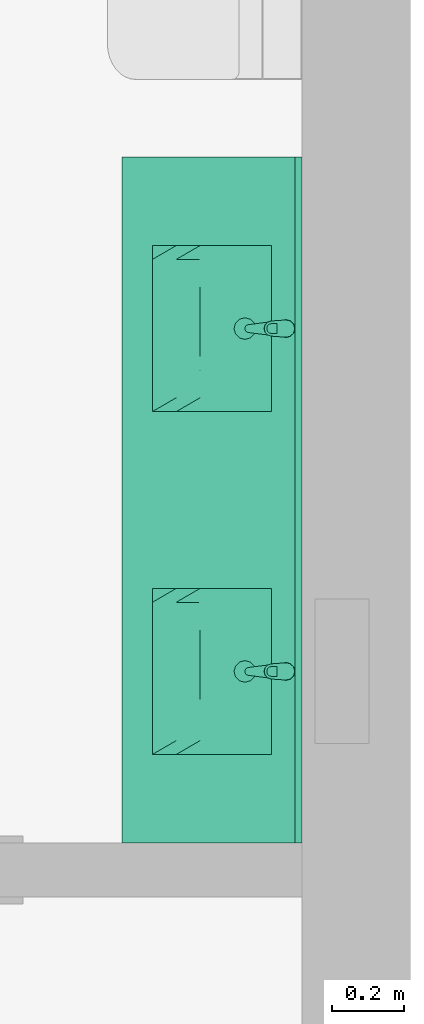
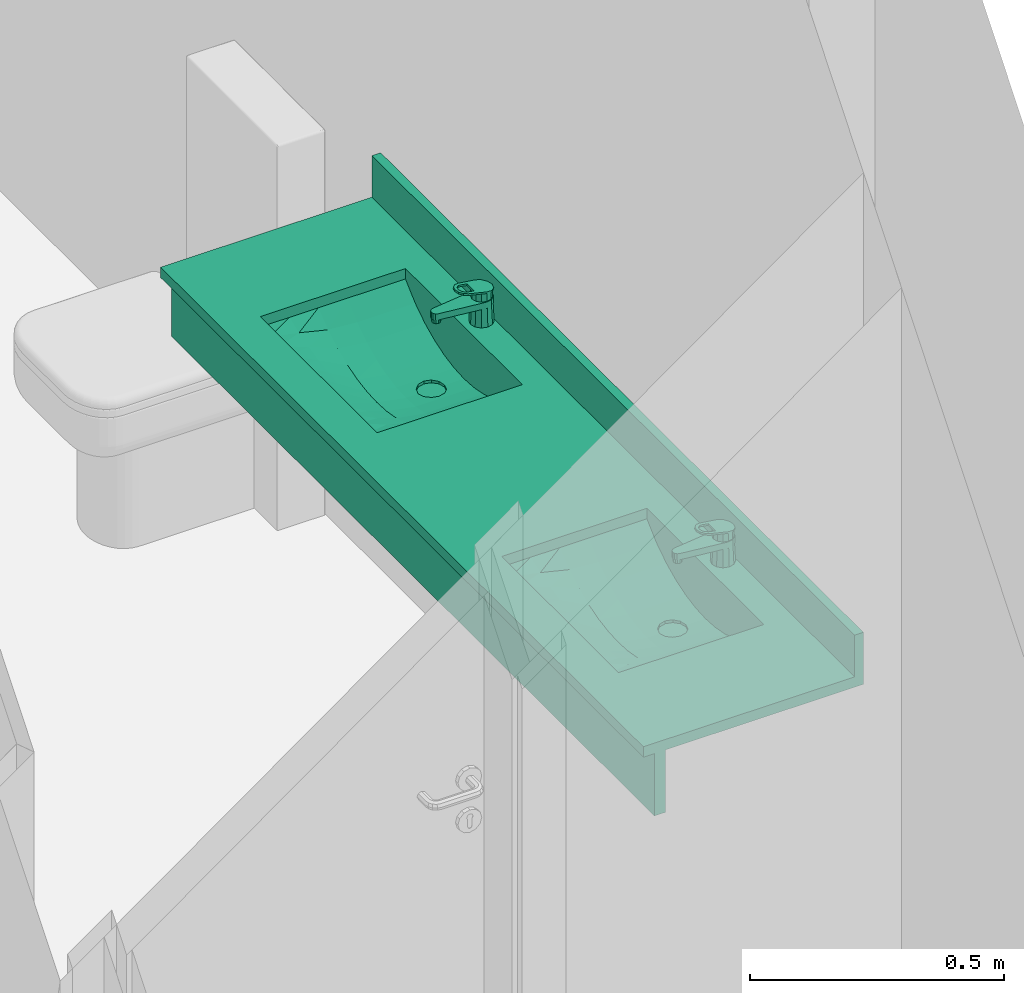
# One storey, part 22 of 24: 1 distribution element.
"""IFC2X3 building model written with IfcOpenShell, lengths in millimetres."""

import ifcopenshell
import ifcopenshell.guid

model = None  # the IFC model being written
_history = None  # IfcOwnerHistory: only IFC2X3 demands one
_inside = {}  # id of a spatial element -> (the spatial element, [elements in it])
_under = {}  # id of a project, library or spatial element -> (it, [spatial elements below it])
_declared = {}  # id of a project -> (the project, [libraries it declares])
_typed = {}  # id of a type object -> (the type object, [elements of that type])
_made_of = {}  # id of a material, layer set ... -> (it, [elements and type objects made of it])


def new_model(schema):
    """Start an empty IFC model of exactly this schema.

    Asked for "IFC4X3", IfcOpenShell would pick the latest addendum, in which some entities
    have other attributes; the version numbers below select the first issue.
    IFC2X3 requires an IfcOwnerHistory on every rooted entity: one is made here for all.
    """
    global model, _history
    if schema == "IFC4X3":
        model = ifcopenshell.file(schema_version=(4, 3, 0, 0))
    else:
        model = ifcopenshell.file(schema=schema)
    _inside.clear()
    _under.clear()
    _declared.clear()
    _typed.clear()
    _made_of.clear()
    _history = None
    if model.schema == "IFC2X3":
        org = make("IfcOrganization", Name="unknown")
        user = make(
            "IfcPersonAndOrganization",
            ThePerson=make("IfcPerson", FamilyName="unknown"),
            TheOrganization=org,
        )
        app = make(
            "IfcApplication",
            ApplicationDeveloper=org,
            Version="unknown",
            ApplicationFullName="unknown",
            ApplicationIdentifier="unknown",
        )
        _history = make(
            "IfcOwnerHistory",
            OwningUser=user,
            OwningApplication=app,
            ChangeAction="ADDED",
            CreationDate=0,
        )
    return model


def make(cls, **values):
    """One entity of the class cls with the attributes given. An attribute that is None is left unset."""
    return model.create_entity(
        cls, **{name: value for name, value in values.items() if value is not None}
    )


def entity(cls, *values):
    """Any entity or typed value of the class cls, its attributes in the order of the schema. None: left unset."""
    e = model.create_entity(cls)
    for i, value in enumerate(values):
        if value is not None:
            e[i] = value
    return e


def rooted(cls, **values):
    """An entity with a GlobalId (a new one), such as an element, a storey or a relation."""
    return make(cls, GlobalId=ifcopenshell.guid.new(), OwnerHistory=_history, **values)


def si_unit(unit_type, name, prefix=None):
    """IfcSIUnit, for example si_unit("LENGTHUNIT", "METRE", prefix="MILLI")."""
    return make("IfcSIUnit", UnitType=unit_type, Prefix=prefix, Name=name)


def converted_unit(unit_type, name, factor, base, dimensions=None, offset=None):
    """IfcConversionBasedUnit, such as the inch: factor (a typed value) times the base unit."""
    return make(
        "IfcConversionBasedUnit"
        if offset is None
        else "IfcConversionBasedUnitWithOffset",
        ConversionOffset=offset,
        Dimensions=None
        if dimensions is None
        else entity("IfcDimensionalExponents", *dimensions),
        UnitType=unit_type,
        Name=name,
        ConversionFactor=make(
            "IfcMeasureWithUnit", ValueComponent=factor, UnitComponent=base
        ),
    )


def money_unit(currency):
    """IfcMonetaryUnit."""
    return make("IfcMonetaryUnit", Currency=currency)


def assignment(units):
    """IfcUnitAssignment: the units of a project."""
    return None if units is None else make("IfcUnitAssignment", Units=units)


def point(xyz):
    """IfcCartesianPoint."""
    return None if xyz is None else make("IfcCartesianPoint", Coordinates=xyz)


def direction(xyz):
    """IfcDirection."""
    return None if xyz is None else make("IfcDirection", DirectionRatios=xyz)


def frame(location, z_axis=None, x_axis=None):
    """IfcAxis2Placement3D, a coordinate frame: its origin and axes. An axis left out is left unset."""
    return make(
        "IfcAxis2Placement3D",
        Location=point(location),
        Axis=direction(z_axis),
        RefDirection=direction(x_axis),
    )


def origin_with_axes():
    """The frame at (0, 0, 0) with the z axis (0, 0, 1) and the x axis (1, 0, 0) written out."""
    return frame((0.0, 0.0, 0.0), z_axis=(0.0, 0.0, 1.0), x_axis=(1.0, 0.0, 0.0))


def place(relative_to, where):
    """IfcLocalPlacement: puts the frame where relative to a parent placement (None: the world)."""
    return make(
        "IfcLocalPlacement", PlacementRelTo=relative_to, RelativePlacement=where
    )


def context(
    kind, dimensions, precision=None, world=None, true_north=None, identifier=None
):
    """IfcGeometricRepresentationContext, for example the 3D "Model" context."""
    return make(
        "IfcGeometricRepresentationContext",
        ContextIdentifier=identifier,
        ContextType=kind,
        CoordinateSpaceDimension=dimensions,
        Precision=precision,
        WorldCoordinateSystem=world,
        TrueNorth=true_north,
    )


def subcontext(parent, identifier, kind, view, scale=None):
    """IfcGeometricRepresentationSubContext, for example "Body" below "Model"."""
    return make(
        "IfcGeometricRepresentationSubContext",
        ContextIdentifier=identifier,
        ContextType=kind,
        ParentContext=parent,
        TargetScale=scale,
        TargetView=view,
    )


def project(units=None, contexts=None):
    """IfcProject with its units and contexts."""
    return rooted(
        "IfcProject",
        Name="project",
        RepresentationContexts=contexts,
        UnitsInContext=assignment(units),
    )


def spatial(cls, under=None, at=None, **own):
    """A site, building, storey or space (cls), placed at a placement, below another one or the project."""
    s = rooted(cls, ObjectPlacement=at, **own)
    if under is not None:
        _under.setdefault(under.id(), (under, []))[1].append(s)
    return s


def faces_of(points, faces, orient=None, outer=None):
    """IfcFace entities. A face is a list of loops; a loop is a list of indices into points, from 0.

    orient and outer hold one flag for each loop. By default every Orientation is true, the
    first loop of a face is its IfcFaceOuterBound and the others are IfcFaceBound.
    """
    made = []
    for i, loops in enumerate(faces):
        bounds = []
        for j, loop in enumerate(loops):
            is_outer = j == 0 if outer is None else outer[i][j]
            bounds.append(
                make(
                    "IfcFaceOuterBound" if is_outer else "IfcFaceBound",
                    Bound=make("IfcPolyLoop", Polygon=[points[k] for k in loop]),
                    Orientation=True if orient is None else orient[i][j],
                )
            )
        made.append(make("IfcFace", Bounds=bounds))
    return made


def open_shell(faces, orient=None, outer=None):
    """The faces of one IfcOpenShell. surface_model builds it on its shared points."""
    return ("IfcOpenShell", faces, orient, outer)


def faceted_brep(points, faces, orient=None, outer=None, voids=None):
    """IfcFacetedBrep: a solid bounded by flat faces; with voids (closed shells), ...WithVoids."""
    shared = [point(p) for p in points]
    hull = make("IfcClosedShell", CfsFaces=faces_of(shared, faces, orient, outer))
    if voids is None:
        return make("IfcFacetedBrep", Outer=hull)
    return make(
        "IfcFacetedBrepWithVoids",
        Outer=hull,
        Voids=[
            make(cls, CfsFaces=faces_of(shared, fs, o, b)) for cls, fs, o, b in voids
        ],
    )


def surface_model(cls, points, shells):
    """IfcFaceBasedSurfaceModel or IfcShellBasedSurfaceModel (cls): surfaces that need not close."""
    shared = [point(p) for p in points]
    made = [make(c, CfsFaces=faces_of(shared, fs, o, b)) for c, fs, o, b in shells]
    if cls == "IfcFaceBasedSurfaceModel":
        return make(cls, FbsmFaces=made)
    return make(cls, SbsmBoundary=made)


def shape(context_of_items, identifier, shape_type, items):
    """IfcShapeRepresentation: the items that make up one representation, for example the "Body"."""
    return make(
        "IfcShapeRepresentation",
        ContextOfItems=context_of_items,
        RepresentationIdentifier=identifier,
        RepresentationType=shape_type,
        Items=items,
    )


def material(Name=None, Category=None):
    """IfcMaterial."""
    return make("IfcMaterial", Name=Name, Category=Category)


def made_of(thing, what):
    """Note that an element or type object is made of a material, layer set ...; save() writes the relation."""
    if what is not None:
        _made_of.setdefault(what.id(), (what, []))[1].append(thing)
    return thing


def type_object(cls, material=None, **own):
    """A type object (cls), such as IfcWallType, which elements share."""
    return made_of(rooted(cls, **own), material)


def element(
    cls,
    number,
    at=None,
    inside=None,
    cuts=None,
    type_object=None,
    material=None,
    context=None,
    identifier="Body",
    shape_type=None,
    held_by="IfcProductDefinitionShape",
    body=None,
    shapes=None,
    **own,
):
    """One element of the class cls, such as IfcWall. Its Tag is "e" and its number.

    at: its placement. inside: the storey or other place that contains it. cuts: it is an
    opening in that element (IfcRelVoidsElement). A single representation is given by context,
    identifier, shape_type and body (its items); several are given by shapes. held_by: the class
    of the entity that holds the representations. save() writes the other relations.
    """
    e = rooted(cls, Tag="e%d" % number, ObjectPlacement=at, **own)
    if body is not None:
        shapes = [shape(context, identifier, shape_type, body)]
    if shapes is not None:
        e.Representation = make(held_by, Representations=shapes)
    if inside is not None:
        _inside.setdefault(inside.id(), (inside, []))[1].append(e)
    if cuts is not None:
        rooted(
            "IfcRelVoidsElement", RelatingBuildingElement=cuts, RelatedOpeningElement=e
        )
    if type_object is not None:
        _typed.setdefault(type_object.id(), (type_object, []))[1].append(e)
    return made_of(e, material)


def aggregate(whole, parts):
    """IfcRelAggregates: a whole, such as a stair, and the parts it consists of."""
    return rooted("IfcRelAggregates", RelatingObject=whole, RelatedObjects=parts)


def save(model, path):
    """Write the relations noted so far, then the file.

    IfcRelAggregates (storeys below a building ...), IfcRelContainedInSpatialStructure (elements
    in a storey), IfcRelDefinesByType, IfcRelAssociatesMaterial and IfcRelDeclares: one each for
    every whole, place, type object, material and project.
    """
    for whole, parts in _under.values():
        aggregate(whole, parts)
    for where, things in _inside.values():
        rooted(
            "IfcRelContainedInSpatialStructure",
            RelatedElements=things,
            RelatingStructure=where,
        )
    for kind, things in _typed.values():
        rooted("IfcRelDefinesByType", RelatedObjects=things, RelatingType=kind)
    for what, things in _made_of.values():
        rooted("IfcRelAssociatesMaterial", RelatedObjects=things, RelatingMaterial=what)
    for by, libraries in _declared.values():
        rooted("IfcRelDeclares", RelatingContext=by, RelatedDefinitions=libraries)
    model.write(path)


model = new_model("IFC2X3")

# Units and contexts
model_context = context("Model", 3, precision=1e-05, world=origin_with_axes(), true_north=direction((0.0, 1.0)))
body_context = subcontext(model_context, "Body", "Model", "MODEL_VIEW")
ifc_project = project(units=[si_unit("LENGTHUNIT", "METRE", prefix="MILLI"), si_unit("AREAUNIT", "SQUARE_METRE"), si_unit("VOLUMEUNIT", "CUBIC_METRE"), converted_unit("PLANEANGLEUNIT", "DEGREE", entity("IfcPlaneAngleMeasure", 0.0174532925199), si_unit("PLANEANGLEUNIT", "RADIAN"), dimensions=[0, 0, 0, 0, 0, 0, 0]), si_unit("SOLIDANGLEUNIT", "STERADIAN"), money_unit("USD"), converted_unit("TIMEUNIT", "Year", entity("IfcTimeMeasure", 31556926.0), si_unit("TIMEUNIT", "SECOND"), dimensions=[0, 0, 0, 0, 0, 0, 0]), si_unit("MASSUNIT", "GRAM"), si_unit("THERMODYNAMICTEMPERATUREUNIT", "DEGREE_CELSIUS"), si_unit("LUMINOUSINTENSITYUNIT", "LUMEN")], contexts=[model_context])

# Site, building, storey
site_placement = place(None, origin_with_axes())
site = spatial("IfcSite", under=ifc_project, at=site_placement, Name="Grove Residential", CompositionType="ELEMENT")
building_placement = place(site_placement, origin_with_axes())
building = spatial("IfcBuilding", under=site, at=building_placement, Name="Building", CompositionType="ELEMENT")
storey_placement = place(building_placement, frame((0.0, 0.0, 3740.0), z_axis=(0.0, 0.0, 1.0), x_axis=(1.0, 0.0, 0.0)))
storey = spatial("IfcBuildingStorey", under=building, at=storey_placement, Name="First Floor", CompositionType="ELEMENT", Elevation=3740.0)

# Distribution element
ifc_material = material(Name="Background")
distribution_element_type = type_object("IfcDistributionElementType", Name="Multi-Basin Counter 21")
distribution_element_placement = place(storey_placement, frame((11950.0, 4224.99996722, 0.0), z_axis=(0.0, 0.0, 1.0), x_axis=(0.0, -1.0, 0.0)))
element("IfcDistributionElement", 1, at=distribution_element_placement, inside=storey, type_object=distribution_element_type, material=ifc_material, Name="FU - 002", context=body_context, shape_type="SurfaceModel", body=[
    faceted_brep([(950.0, -500.0, 875.0), (-950.0, -500.0, 875.0), (-950.0, 0.0, 875.0), (950.0, 0.0, 875.0), (245.0, -85.0, 875.0), (245.0, -415.0, 875.0), (705.0, -415.0, 875.0), (705.0, -85.0, 875.0), (-245.0, -415.0, 875.0), (-245.0, -85.0, 875.0), (-705.0, -85.0, 875.0), (-705.0, -415.0, 875.0), (950.0, -500.0, 900.0), (-950.0, -500.0, 900.0), (-950.0, 0.0, 900.0), (950.0, 0.0, 900.0), (245.0, -85.0, 900.0), (245.0, -415.0, 900.0), (705.0, -415.0, 900.0), (705.0, -85.0, 900.0), (-245.0, -85.0, 900.0), (-245.0, -415.0, 900.0), (-705.0, -85.0, 900.0), (-705.0, -415.0, 900.0)], [[[0, 1, 2, 3], [4, 5, 6, 7], [8, 9, 10, 11]], [[0, 12, 13, 1]], [[1, 13, 14, 2]], [[2, 14, 15, 3]], [[3, 15, 12, 0]], [[4, 16, 17, 5]], [[5, 17, 18, 6]], [[6, 18, 19, 7]], [[7, 19, 16, 4]], [[20, 9, 8, 21]], [[22, 10, 9, 20]], [[23, 11, 10, 22]], [[21, 8, 11, 23]], [[12, 15, 14, 13], [16, 19, 18, 17], [21, 23, 22, 20]]]),
    faceted_brep([(950.0, -20.0, 900.0), (950.0, -20.0, 1000.0), (-950.0, -20.0, 1000.0), (-950.0, -20.0, 900.0), (950.0, 0.0, 900.0), (950.0, 0.0, 1000.0), (-950.0, 0.0, 1000.0), (-950.0, 0.0, 900.0)], [[[0, 1, 2, 3]], [[4, 5, 1, 0]], [[1, 5, 6, 2]], [[3, 2, 6, 7]], [[0, 3, 7, 4]], [[7, 6, 5, 4]]]),
    faceted_brep([(950.0, -475.0, 725.0), (950.0, -475.0, 875.0), (-950.0, -475.0, 875.0), (-950.0, -475.0, 725.0), (950.0, -450.0, 725.0), (950.0, -450.0, 875.0), (-950.0, -450.0, 875.0), (-950.0, -450.0, 725.0)], [[[0, 1, 2, 3]], [[4, 5, 1, 0]], [[1, 5, 6, 2]], [[3, 2, 6, 7]], [[0, 3, 7, 4]], [[7, 6, 5, 4]]]),
    surface_model("IfcShellBasedSurfaceModel", [(502.880937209, -151.0, 776.705514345), (513.333333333, -151.0, 777.344901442), (513.333333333, -85.0, 777.344901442), (475.0, -85.0, 775.0), (475.0, -128.90845, 775.0), (490.0, -132.927687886, 775.91757013), (500.980762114, -143.90845, 776.589278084), (475.0, -188.90845, 775.0), (475.0, -217.0, 775.0), (513.333333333, -217.0, 777.344901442), (505.0, -158.90845, 776.835140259), (500.980762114, -173.90845, 776.589278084), (490.0, -184.889212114, 775.91757013), (551.666666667, -151.0, 784.487750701), (551.666666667, -85.0, 784.487750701), (321.666666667, -85.0, 814.91096364), (360.0, -85.0, 796.779570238), (398.333333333, -85.0, 784.487750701), (436.666666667, -85.0, 777.344901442), (590.0, -85.0, 796.779570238), (628.333333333, -85.0, 814.91096364), (666.666666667, -85.0, 840.152573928), (705.0, -85.0, 875.0), (245.0, -85.0, 875.0), (283.333333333, -85.0, 840.152573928), (436.666666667, -151.0, 777.344901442), (447.119062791, -151.0, 776.705514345), (449.019237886, -143.90845, 776.589278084), (460.0, -132.927687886, 775.91757013), (436.666666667, -217.0, 777.344901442), (460.0, -184.889212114, 775.91757013), (449.019237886, -173.90845, 776.589278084), (445.0, -158.90845, 776.835140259), (513.333333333, -283.0, 789.601320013), (551.666666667, -217.0, 784.487750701), (590.0, -151.0, 796.779570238), (321.666666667, -151.0, 814.91096364), (360.0, -151.0, 796.779570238), (398.333333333, -151.0, 784.487750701), (628.333333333, -151.0, 814.91096364), (666.666666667, -151.0, 840.152573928), (705.0, -151.0, 875.0), (245.0, -151.0, 875.0), (283.333333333, -151.0, 840.152573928), (398.333333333, -217.0, 784.487750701), (475.0, -283.0, 787.470979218), (551.666666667, -283.0, 796.073050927), (590.0, -217.0, 796.779570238), (321.666666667, -217.0, 814.91096364), (360.0, -217.0, 796.779570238), (628.333333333, -217.0, 814.91096364), (666.666666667, -217.0, 840.152573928), (705.0, -217.0, 875.0), (705.0, -283.0, 875.0), (705.0, -349.0, 875.0), (705.0, -415.0, 875.0), (245.0, -283.0, 875.0), (245.0, -217.0, 875.0), (245.0, -415.0, 875.0), (245.0, -349.0, 875.0), (283.333333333, -217.0, 840.152573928), (436.666666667, -283.0, 789.601320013), (513.333333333, -349.0, 832.610025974), (551.666666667, -349.0, 836.130662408), (590.0, -283.0, 807.144405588), (360.0, -283.0, 807.144405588), (398.333333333, -283.0, 796.073050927), (628.333333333, -283.0, 823.307626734), (666.666666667, -283.0, 845.418737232), (666.666666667, -349.0, 861.354147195), (283.333333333, -283.0, 845.418737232), (283.333333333, -415.0, 875.0), (283.333333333, -349.0, 861.354147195), (321.666666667, -283.0, 823.307626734), (475.0, -349.0, 831.440859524), (590.0, -349.0, 842.042929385), (666.666666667, -415.0, 875.0), (628.333333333, -415.0, 875.0), (590.0, -415.0, 875.0), (551.666666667, -415.0, 875.0), (513.333333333, -415.0, 875.0), (475.0, -415.0, 875.0), (436.666666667, -415.0, 875.0), (398.333333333, -415.0, 875.0), (360.0, -415.0, 875.0), (321.666666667, -415.0, 875.0), (436.666666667, -349.0, 832.610025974), (628.333333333, -349.0, 850.416360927), (360.0, -349.0, 842.042929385), (398.333333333, -349.0, 836.130662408), (321.666666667, -349.0, 850.416360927)], [open_shell([[[0, 1, 2, 3, 4, 5, 6]], [[7, 8, 9, 1, 0, 10, 11, 12]], [[2, 1, 13, 14]], [[15, 16, 17, 18, 3, 2, 14, 19, 20, 21, 22, 23, 24]], [[3, 18, 25, 26, 27, 28, 4]], [[26, 25, 29, 8, 7, 30, 31, 32]], [[8, 33, 9]], [[1, 9, 34, 13]], [[14, 13, 35, 19]], [[15, 36, 37, 16]], [[16, 37, 38, 17]], [[17, 38, 25, 18]], [[19, 35, 39, 20]], [[20, 39, 40, 21]], [[21, 40, 41, 22]], [[23, 42, 43, 24]], [[24, 43, 36, 15]], [[38, 44, 29, 25]], [[29, 45, 8]], [[45, 33, 8]], [[33, 46, 9]], [[9, 46, 34]], [[13, 34, 47, 35]], [[36, 48, 49, 37]], [[37, 49, 44, 38]], [[35, 47, 50, 39]], [[39, 50, 51, 40]], [[40, 51, 52, 41]], [[52, 53, 54, 55, 22, 41]], [[56, 57, 42, 23, 58, 59]], [[42, 57, 60, 43]], [[43, 60, 48, 36]], [[44, 61, 29]], [[61, 45, 29]], [[45, 62, 33]], [[33, 63, 46]], [[46, 64, 34]], [[34, 64, 47]], [[48, 65, 49]], [[49, 66, 44]], [[47, 67, 50]], [[50, 68, 51]], [[51, 53, 52]], [[68, 54, 53]], [[69, 55, 54]], [[56, 70, 57]], [[58, 71, 59]], [[59, 72, 56]], [[57, 70, 60]], [[60, 73, 48]], [[66, 61, 44]], [[61, 74, 45]], [[74, 62, 45]], [[62, 63, 33]], [[63, 75, 46]], [[46, 75, 64]], [[64, 67, 47]], [[73, 65, 48]], [[65, 66, 49]], [[67, 68, 50]], [[68, 53, 51]], [[69, 54, 68]], [[76, 55, 69]], [[56, 72, 70]], [[77, 78, 79, 80, 81, 82, 83, 84, 85, 71, 58, 55, 76]], [[59, 71, 72]], [[70, 73, 60]], [[66, 86, 61]], [[86, 74, 61]], [[74, 80, 62]], [[62, 79, 63]], [[63, 78, 75]], [[75, 87, 64]], [[64, 87, 67]], [[73, 88, 65]], [[65, 89, 66]], [[67, 69, 68]], [[87, 76, 69]], [[72, 90, 70]], [[78, 77, 75]], [[79, 78, 63]], [[80, 79, 62]], [[81, 80, 74]], [[82, 81, 86]], [[83, 82, 89]], [[84, 83, 88]], [[85, 84, 90]], [[71, 85, 72]], [[77, 76, 87]], [[70, 90, 73]], [[89, 86, 66]], [[86, 81, 74]], [[75, 77, 87]], [[87, 69, 67]], [[90, 88, 73]], [[88, 89, 65]], [[72, 85, 90]], [[89, 82, 86]], [[88, 83, 89]], [[90, 84, 88]]])]),
    surface_model("IfcShellBasedSurfaceModel", [(449.019237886, -143.90845, 776.589278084), (449.019237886, -143.90845, 770.0), (445.0, -158.90845, 770.0), (445.0, -158.90845, 776.835140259), (460.0, -132.927687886, 775.91757013), (460.0, -132.927687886, 770.0), (475.0, -128.90845, 770.0), (490.0, -132.927687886, 770.0), (500.980762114, -143.90845, 770.0), (505.0, -158.90845, 770.0), (500.980762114, -173.90845, 770.0), (490.0, -184.889212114, 770.0), (475.0, -188.90845, 770.0), (460.0, -184.889212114, 770.0), (449.019237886, -173.90845, 770.0), (449.019237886, -173.90845, 776.589278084), (475.0, -128.90845, 775.0), (490.0, -132.927687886, 775.91757013), (500.980762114, -143.90845, 776.589278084), (505.0, -158.90845, 776.835140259), (500.980762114, -173.90845, 776.589278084), (490.0, -184.889212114, 775.91757013), (475.0, -188.90845, 775.0), (460.0, -184.889212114, 775.91757013)], [open_shell([[[0, 1, 2, 3]], [[4, 5, 1, 0]], [[5, 6, 7, 8, 9, 10, 11, 12, 13, 14, 2, 1]], [[3, 2, 14, 15]], [[16, 6, 5, 4]], [[17, 7, 6, 16]], [[18, 8, 7, 17]], [[19, 9, 8, 18]], [[20, 10, 9, 19]], [[21, 11, 10, 20]], [[22, 12, 11, 21]], [[23, 13, 12, 22]], [[15, 14, 13, 23]]])]),
    surface_model("IfcShellBasedSurfaceModel", [(-447.119062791, -151.0, 776.705514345), (-436.666666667, -151.0, 777.344901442), (-436.666666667, -85.0, 777.344901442), (-475.0, -85.0, 775.0), (-475.0, -128.90845, 775.0), (-460.0, -132.927687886, 775.91757013), (-449.019237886, -143.90845, 776.589278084), (-475.0, -188.90845, 775.0), (-475.0, -217.0, 775.0), (-436.666666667, -217.0, 777.344901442), (-445.0, -158.90845, 776.835140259), (-449.019237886, -173.90845, 776.589278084), (-460.0, -184.889212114, 775.91757013), (-398.333333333, -151.0, 784.487750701), (-398.333333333, -85.0, 784.487750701), (-628.333333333, -85.0, 814.91096364), (-590.0, -85.0, 796.779570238), (-551.666666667, -85.0, 784.487750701), (-513.333333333, -85.0, 777.344901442), (-360.0, -85.0, 796.779570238), (-321.666666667, -85.0, 814.91096364), (-283.333333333, -85.0, 840.152573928), (-245.0, -85.0, 875.0), (-705.0, -85.0, 875.0), (-666.666666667, -85.0, 840.152573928), (-513.333333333, -151.0, 777.344901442), (-502.880937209, -151.0, 776.705514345), (-500.980762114, -143.90845, 776.589278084), (-490.0, -132.927687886, 775.91757013), (-513.333333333, -217.0, 777.344901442), (-490.0, -184.889212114, 775.91757013), (-500.980762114, -173.90845, 776.589278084), (-505.0, -158.90845, 776.835140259), (-436.666666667, -283.0, 789.601320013), (-398.333333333, -217.0, 784.487750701), (-360.0, -151.0, 796.779570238), (-628.333333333, -151.0, 814.91096364), (-590.0, -151.0, 796.779570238), (-551.666666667, -151.0, 784.487750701), (-321.666666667, -151.0, 814.91096364), (-283.333333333, -151.0, 840.152573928), (-245.0, -151.0, 875.0), (-705.0, -151.0, 875.0), (-666.666666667, -151.0, 840.152573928), (-551.666666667, -217.0, 784.487750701), (-475.0, -283.0, 787.470979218), (-398.333333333, -283.0, 796.073050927), (-360.0, -217.0, 796.779570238), (-628.333333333, -217.0, 814.91096364), (-590.0, -217.0, 796.779570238), (-321.666666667, -217.0, 814.91096364), (-283.333333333, -217.0, 840.152573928), (-245.0, -217.0, 875.0), (-245.0, -283.0, 875.0), (-245.0, -349.0, 875.0), (-245.0, -415.0, 875.0), (-705.0, -283.0, 875.0), (-705.0, -217.0, 875.0), (-705.0, -415.0, 875.0), (-705.0, -349.0, 875.0), (-666.666666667, -217.0, 840.152573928), (-513.333333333, -283.0, 789.601320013), (-436.666666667, -349.0, 832.610025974), (-398.333333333, -349.0, 836.130662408), (-360.0, -283.0, 807.144405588), (-590.0, -283.0, 807.144405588), (-551.666666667, -283.0, 796.073050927), (-321.666666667, -283.0, 823.307626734), (-283.333333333, -283.0, 845.418737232), (-283.333333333, -349.0, 861.354147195), (-666.666666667, -283.0, 845.418737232), (-666.666666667, -415.0, 875.0), (-666.666666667, -349.0, 861.354147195), (-628.333333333, -283.0, 823.307626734), (-475.0, -349.0, 831.440859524), (-360.0, -349.0, 842.042929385), (-283.333333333, -415.0, 875.0), (-321.666666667, -415.0, 875.0), (-360.0, -415.0, 875.0), (-398.333333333, -415.0, 875.0), (-436.666666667, -415.0, 875.0), (-475.0, -415.0, 875.0), (-513.333333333, -415.0, 875.0), (-551.666666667, -415.0, 875.0), (-590.0, -415.0, 875.0), (-628.333333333, -415.0, 875.0), (-513.333333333, -349.0, 832.610025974), (-321.666666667, -349.0, 850.416360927), (-590.0, -349.0, 842.042929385), (-551.666666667, -349.0, 836.130662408), (-628.333333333, -349.0, 850.416360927)], [open_shell([[[0, 1, 2, 3, 4, 5, 6]], [[7, 8, 9, 1, 0, 10, 11, 12]], [[2, 1, 13, 14]], [[15, 16, 17, 18, 3, 2, 14, 19, 20, 21, 22, 23, 24]], [[3, 18, 25, 26, 27, 28, 4]], [[26, 25, 29, 8, 7, 30, 31, 32]], [[8, 33, 9]], [[1, 9, 34, 13]], [[14, 13, 35, 19]], [[15, 36, 37, 16]], [[16, 37, 38, 17]], [[17, 38, 25, 18]], [[19, 35, 39, 20]], [[20, 39, 40, 21]], [[21, 40, 41, 22]], [[23, 42, 43, 24]], [[24, 43, 36, 15]], [[38, 44, 29, 25]], [[29, 45, 8]], [[45, 33, 8]], [[33, 46, 9]], [[9, 46, 34]], [[13, 34, 47, 35]], [[36, 48, 49, 37]], [[37, 49, 44, 38]], [[35, 47, 50, 39]], [[39, 50, 51, 40]], [[40, 51, 52, 41]], [[52, 53, 54, 55, 22, 41]], [[56, 57, 42, 23, 58, 59]], [[42, 57, 60, 43]], [[43, 60, 48, 36]], [[44, 61, 29]], [[61, 45, 29]], [[45, 62, 33]], [[33, 63, 46]], [[46, 64, 34]], [[34, 64, 47]], [[48, 65, 49]], [[49, 66, 44]], [[47, 67, 50]], [[50, 68, 51]], [[51, 53, 52]], [[68, 54, 53]], [[69, 55, 54]], [[56, 70, 57]], [[58, 71, 59]], [[59, 72, 56]], [[57, 70, 60]], [[60, 73, 48]], [[66, 61, 44]], [[61, 74, 45]], [[74, 62, 45]], [[62, 63, 33]], [[63, 75, 46]], [[46, 75, 64]], [[64, 67, 47]], [[73, 65, 48]], [[65, 66, 49]], [[67, 68, 50]], [[68, 53, 51]], [[69, 54, 68]], [[76, 55, 69]], [[56, 72, 70]], [[77, 78, 79, 80, 81, 82, 83, 84, 85, 71, 58, 55, 76]], [[59, 71, 72]], [[70, 73, 60]], [[66, 86, 61]], [[86, 74, 61]], [[74, 80, 62]], [[62, 79, 63]], [[63, 78, 75]], [[75, 87, 64]], [[64, 87, 67]], [[73, 88, 65]], [[65, 89, 66]], [[67, 69, 68]], [[87, 76, 69]], [[72, 90, 70]], [[78, 77, 75]], [[79, 78, 63]], [[80, 79, 62]], [[81, 80, 74]], [[82, 81, 86]], [[83, 82, 89]], [[84, 83, 88]], [[85, 84, 90]], [[71, 85, 72]], [[77, 76, 87]], [[70, 90, 73]], [[89, 86, 66]], [[86, 81, 74]], [[75, 77, 87]], [[87, 69, 67]], [[90, 88, 73]], [[88, 89, 65]], [[72, 85, 90]], [[89, 82, 86]], [[88, 83, 89]], [[90, 84, 88]]])]),
    surface_model("IfcShellBasedSurfaceModel", [(-500.980762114, -143.90845, 776.589278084), (-500.980762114, -143.90845, 770.0), (-505.0, -158.90845, 770.0), (-505.0, -158.90845, 776.835140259), (-490.0, -132.927687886, 775.91757013), (-490.0, -132.927687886, 770.0), (-475.0, -128.90845, 770.0), (-460.0, -132.927687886, 770.0), (-449.019237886, -143.90845, 770.0), (-445.0, -158.90845, 770.0), (-449.019237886, -173.90845, 770.0), (-460.0, -184.889212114, 770.0), (-475.0, -188.90845, 770.0), (-490.0, -184.889212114, 770.0), (-500.980762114, -173.90845, 770.0), (-500.980762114, -173.90845, 776.589278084), (-475.0, -128.90845, 775.0), (-460.0, -132.927687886, 775.91757013), (-449.019237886, -143.90845, 776.589278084), (-445.0, -158.90845, 776.835140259), (-449.019237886, -173.90845, 776.589278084), (-460.0, -184.889212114, 775.91757013), (-475.0, -188.90845, 775.0), (-490.0, -184.889212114, 775.91757013)], [open_shell([[[0, 1, 2, 3]], [[4, 5, 1, 0]], [[5, 6, 7, 8, 9, 10, 11, 12, 13, 14, 2, 1]], [[3, 2, 14, 15]], [[16, 6, 5, 4]], [[17, 7, 6, 16]], [[18, 8, 7, 17]], [[19, 9, 8, 18]], [[20, 10, 9, 19]], [[21, 11, 10, 20]], [[22, 12, 11, 21]], [[23, 13, 12, 22]], [[15, 14, 13, 23]]])]),
    faceted_brep([(462.5, -23.3493649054, 900.0), (464.412677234, -26.6622190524, 976.507089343), (475.0, -23.7980769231, 975.961538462), (475.0, -20.0, 900.0), (453.349364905, -32.5, 900.0), (456.726449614, -34.4497607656, 977.990430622), (454.0, -45.0, 980.0), (456.899658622, -55.4502369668, 981.990521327), (464.585894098, -63.037760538, 983.435763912), (475.0, -65.8018867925, 983.962264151), (485.414105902, -63.037760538, 983.435763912), (493.100341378, -55.4502369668, 981.990521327), (496.0, -45.0, 980.0), (493.273550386, -34.4497607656, 977.990430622), (485.587322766, -26.6622190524, 976.507089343), (487.5, -23.3493649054, 900.0), (496.650635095, -32.5, 900.0), (500.0, -45.0, 900.0), (496.650635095, -57.5, 900.0), (487.5, -66.6506350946, 900.0), (475.0, -70.0, 900.0), (462.5, -66.6506350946, 900.0), (453.349364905, -57.5, 900.0), (450.0, -45.0, 900.0)], [[[0, 1, 2, 3]], [[4, 5, 1, 0]], [[1, 5, 6, 7, 8, 9, 10, 11, 12, 13, 14, 2]], [[3, 2, 14, 15]], [[0, 3, 15, 16, 17, 18, 19, 20, 21, 22, 23, 4]], [[23, 6, 5, 4]], [[22, 7, 6, 23]], [[21, 8, 7, 22]], [[20, 9, 8, 21]], [[19, 10, 9, 20]], [[18, 11, 10, 19]], [[17, 12, 11, 18]], [[16, 13, 12, 17]], [[15, 14, 13, 16]]]),
    faceted_brep([(466.0, -148.0, 935.0), (466.0, -148.0, 945.0), (467.205771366, -143.5, 945.0), (467.205771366, -143.5, 935.0), (467.205771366, -152.5, 935.0), (467.205771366, -152.5, 945.0), (470.5, -155.794228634, 945.0), (475.0, -157.0, 945.0), (479.5, -155.794228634, 945.0), (482.794228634, -152.5, 945.0), (484.0, -148.0, 945.0), (482.794228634, -143.5, 945.0), (479.5, -140.205771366, 945.0), (475.0, -139.0, 945.0), (470.5, -140.205771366, 945.0), (470.5, -140.205771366, 935.0), (475.0, -139.0, 935.0), (479.5, -140.205771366, 935.0), (482.794228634, -143.5, 935.0), (484.0, -148.0, 935.0), (482.794228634, -152.5, 935.0), (479.5, -155.794228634, 935.0), (475.0, -157.0, 935.0), (470.5, -155.794228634, 935.0)], [[[0, 1, 2, 3]], [[4, 5, 1, 0]], [[1, 5, 6, 7, 8, 9, 10, 11, 12, 13, 14, 2]], [[3, 2, 14, 15]], [[0, 3, 15, 16, 17, 18, 19, 20, 21, 22, 23, 4]], [[23, 6, 5, 4]], [[22, 7, 6, 23]], [[21, 8, 7, 22]], [[20, 9, 8, 21]], [[19, 10, 9, 20]], [[18, 11, 10, 19]], [[17, 12, 11, 18]], [[16, 13, 12, 17]], [[15, 14, 13, 16]]]),
    faceted_brep([(496.727805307, -34.8067946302, 960.0), (487.871717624, -24.7436961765, 960.0), (474.99999898, -21.000021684, 960.0), (462.128280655, -24.7436972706, 960.0), (453.272193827, -34.806796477, 960.0), (451.194600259, -48.0499020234, 960.0), (464.088, -149.3883, 960.0), (465.971083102, -154.283134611, 960.0), (469.906611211, -157.749692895, 960.0), (474.999963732, -158.99996004, 960.0), (480.093324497, -157.749726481, 960.0), (484.028875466, -154.283194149, 960.0), (485.911990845, -149.388371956, 960.0), (498.8054, -48.0499, 960.0), (464.0, -25.9474411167, 960.0), (475.0, -23.0, 960.0), (486.0, -25.9474411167, 960.0), (494.052558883, -34.0, 960.0), (497.0, -45.0, 960.0), (494.052558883, -56.0, 960.0), (486.0, -64.0525588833, 960.0), (475.0, -67.0, 960.0), (464.0, -64.0525588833, 960.0), (455.947441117, -56.0, 960.0), (453.0, -45.0, 960.0), (455.947441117, -34.0, 960.0), (496.727805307, -34.8067946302, 945.0), (487.871717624, -24.7436961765, 945.0), (474.99999898, -21.000021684, 945.0), (462.128280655, -24.7436972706, 945.0), (453.272193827, -34.806796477, 945.0), (451.194600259, -48.0499020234, 945.0), (464.088, -149.3883, 945.0), (465.971083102, -154.283134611, 945.0), (469.906611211, -157.749692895, 945.0), (474.999963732, -158.99996004, 945.0), (480.093324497, -157.749726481, 945.0), (484.028875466, -154.283194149, 945.0), (485.911990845, -149.388371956, 945.0), (498.8054, -48.0499, 945.0), (475.0, -22.25, 945.0), (463.625, -25.2979220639, 945.0), (486.375, -25.2979220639, 945.0), (494.702077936, -33.625, 945.0), (497.75, -45.0, 945.0), (494.702077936, -56.375, 945.0), (486.375, -64.7020779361, 945.0), (475.0, -67.75, 945.0), (463.625, -64.7020779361, 945.0), (455.297922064, -56.375, 945.0), (452.25, -45.0, 945.0), (455.297922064, -33.625, 945.0)], [[[0, 1, 2, 3, 4, 5, 6, 7, 8, 9, 10, 11, 12, 13], [14, 15, 16, 17, 18, 19, 20, 21, 22, 23, 24, 25]], [[0, 26, 27, 1]], [[1, 27, 28, 2]], [[2, 28, 29, 3]], [[3, 29, 30, 4]], [[4, 30, 31, 5]], [[5, 31, 32, 6]], [[6, 32, 33, 7]], [[7, 33, 34, 8]], [[8, 34, 35, 9]], [[9, 35, 36, 10]], [[10, 36, 37, 11]], [[11, 37, 38, 12]], [[12, 38, 39, 13]], [[13, 39, 26, 0]], [[40, 15, 14, 41]], [[42, 16, 15, 40]], [[16, 42, 43, 17]], [[17, 43, 44, 18]], [[18, 44, 45, 19]], [[19, 45, 46, 20]], [[20, 46, 47, 21]], [[48, 22, 21, 47]], [[49, 23, 22, 48]], [[50, 24, 23, 49]], [[51, 25, 24, 50]], [[41, 14, 25, 51]], [[36, 35, 34, 33, 32, 31, 30, 29, 28, 27, 26, 39, 38, 37], [48, 47, 46, 45, 44, 43, 42, 40, 41, 51, 50, 49]]]),
    faceted_brep([(451.107, -46.6925693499, 980.322394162), (451.107, -45.9441209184, 984.251748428), (453.703578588, -33.4768327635, 981.877026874), (453.703578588, -34.225281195, 977.947672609), (454.054063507, -86.8367022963, 987.968895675), (454.054063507, -86.0882538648, 991.898249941), (457.336860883, -95.7659180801, 993.741614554), (464.938564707, -102.71529766, 995.065305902), (475.000442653, -105.237163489, 995.545661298), (485.062212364, -102.714880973, 995.065226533), (492.663617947, -95.7651865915, 993.741475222), (495.946, -86.0873864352, 991.898084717), (498.893020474, -45.9438419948, 984.251695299), (496.296291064, -33.4765841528, 981.87697952), (487.47168152, -24.1603541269, 980.102459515), (474.999857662, -20.7195870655, 979.447075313), (462.52807543, -24.1604997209, 980.102487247), (461.0, -69.7923542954, 988.794269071), (489.0, -69.7923542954, 988.794269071), (489.0, -84.6079845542, 991.616293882), (487.124355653, -91.4843545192, 992.926078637), (482.0, -96.5182067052, 993.884907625), (475.0, -98.3607244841, 994.235863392), (468.0, -96.5182067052, 993.884907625), (462.875644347, -91.4843545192, 992.926078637), (461.0, -84.6079845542, 991.616293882), (462.52807543, -24.9089481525, 976.173132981), (474.999857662, -21.4680354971, 975.517721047), (487.47168152, -24.9088025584, 976.173105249), (496.296291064, -34.2250325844, 977.947625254), (498.893020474, -46.6922904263, 980.322341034), (495.946, -86.8358348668, 987.968730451), (492.663617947, -96.5136350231, 989.812120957), (485.062212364, -103.463329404, 991.135872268), (475.000442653, -105.98561192, 991.616307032), (464.938564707, -103.463746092, 991.135951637), (457.336860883, -96.5143665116, 989.812260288), (461.0, -70.540802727, 984.864914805), (461.0, -85.3564329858, 987.686939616), (462.875644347, -92.2328029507, 988.996724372), (468.0, -97.2666551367, 989.955553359), (475.0, -99.1091729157, 990.306509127), (482.0, -97.2666551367, 989.955553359), (487.124355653, -92.2328029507, 988.996724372), (489.0, -85.3564329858, 987.686939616), (489.0, -70.540802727, 984.864914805)], [[[0, 1, 2, 3]], [[4, 5, 1, 0]], [[1, 5, 6, 7, 8, 9, 10, 11, 12, 13, 14, 15, 16, 2], [17, 18, 19, 20, 21, 22, 23, 24, 25]], [[3, 2, 16, 26]], [[0, 3, 26, 27, 28, 29, 30, 31, 32, 33, 34, 35, 36, 4], [37, 38, 39, 40, 41, 42, 43, 44, 45]], [[36, 6, 5, 4]], [[35, 7, 6, 36]], [[34, 8, 7, 35]], [[33, 9, 8, 34]], [[32, 10, 9, 33]], [[31, 11, 10, 32]], [[30, 12, 11, 31]], [[29, 13, 12, 30]], [[28, 14, 13, 29]], [[27, 15, 14, 28]], [[26, 16, 15, 27]], [[45, 18, 17, 37]], [[44, 19, 18, 45]], [[43, 20, 19, 44]], [[42, 21, 20, 43]], [[41, 22, 21, 42]], [[40, 23, 22, 41]], [[39, 24, 23, 40]], [[38, 25, 24, 39]], [[37, 17, 25, 38]]]),
    faceted_brep([(-487.5, -23.3493649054, 900.0), (-485.587322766, -26.6622190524, 976.507089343), (-475.0, -23.7980769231, 975.961538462), (-475.0, -20.0, 900.0), (-496.650635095, -32.5, 900.0), (-493.273550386, -34.4497607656, 977.990430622), (-496.0, -45.0, 980.0), (-493.100341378, -55.4502369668, 981.990521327), (-485.414105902, -63.037760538, 983.435763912), (-475.0, -65.8018867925, 983.962264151), (-464.585894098, -63.037760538, 983.435763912), (-456.899658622, -55.4502369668, 981.990521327), (-454.0, -45.0, 980.0), (-456.726449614, -34.4497607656, 977.990430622), (-464.412677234, -26.6622190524, 976.507089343), (-462.5, -23.3493649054, 900.0), (-453.349364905, -32.5, 900.0), (-450.0, -45.0, 900.0), (-453.349364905, -57.5, 900.0), (-462.5, -66.6506350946, 900.0), (-475.0, -70.0, 900.0), (-487.5, -66.6506350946, 900.0), (-496.650635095, -57.5, 900.0), (-500.0, -45.0, 900.0)], [[[0, 1, 2, 3]], [[4, 5, 1, 0]], [[1, 5, 6, 7, 8, 9, 10, 11, 12, 13, 14, 2]], [[3, 2, 14, 15]], [[0, 3, 15, 16, 17, 18, 19, 20, 21, 22, 23, 4]], [[23, 6, 5, 4]], [[22, 7, 6, 23]], [[21, 8, 7, 22]], [[20, 9, 8, 21]], [[19, 10, 9, 20]], [[18, 11, 10, 19]], [[17, 12, 11, 18]], [[16, 13, 12, 17]], [[15, 14, 13, 16]]]),
    faceted_brep([(-484.0, -148.0, 935.0), (-484.0, -148.0, 945.0), (-482.794228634, -143.5, 945.0), (-482.794228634, -143.5, 935.0), (-482.794228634, -152.5, 935.0), (-482.794228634, -152.5, 945.0), (-479.5, -155.794228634, 945.0), (-475.0, -157.0, 945.0), (-470.5, -155.794228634, 945.0), (-467.205771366, -152.5, 945.0), (-466.0, -148.0, 945.0), (-467.205771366, -143.5, 945.0), (-470.5, -140.205771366, 945.0), (-475.0, -139.0, 945.0), (-479.5, -140.205771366, 945.0), (-479.5, -140.205771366, 935.0), (-475.0, -139.0, 935.0), (-470.5, -140.205771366, 935.0), (-467.205771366, -143.5, 935.0), (-466.0, -148.0, 935.0), (-467.205771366, -152.5, 935.0), (-470.5, -155.794228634, 935.0), (-475.0, -157.0, 935.0), (-479.5, -155.794228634, 935.0)], [[[0, 1, 2, 3]], [[4, 5, 1, 0]], [[1, 5, 6, 7, 8, 9, 10, 11, 12, 13, 14, 2]], [[3, 2, 14, 15]], [[0, 3, 15, 16, 17, 18, 19, 20, 21, 22, 23, 4]], [[23, 6, 5, 4]], [[22, 7, 6, 23]], [[21, 8, 7, 22]], [[20, 9, 8, 21]], [[19, 10, 9, 20]], [[18, 11, 10, 19]], [[17, 12, 11, 18]], [[16, 13, 12, 17]], [[15, 14, 13, 16]]]),
    faceted_brep([(-453.272194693, -34.8067946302, 960.0), (-462.128282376, -24.7436961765, 960.0), (-475.00000102, -21.000021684, 960.0), (-487.871719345, -24.7436972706, 960.0), (-496.727806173, -34.806796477, 960.0), (-498.805399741, -48.0499020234, 960.0), (-485.912, -149.3883, 960.0), (-484.028916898, -154.283134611, 960.0), (-480.093388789, -157.749692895, 960.0), (-475.000036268, -158.99996004, 960.0), (-469.906675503, -157.749726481, 960.0), (-465.971124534, -154.283194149, 960.0), (-464.088009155, -149.388371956, 960.0), (-451.1946, -48.0499, 960.0), (-486.0, -25.9474411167, 960.0), (-475.0, -23.0, 960.0), (-464.0, -25.9474411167, 960.0), (-455.947441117, -34.0, 960.0), (-453.0, -45.0, 960.0), (-455.947441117, -56.0, 960.0), (-464.0, -64.0525588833, 960.0), (-475.0, -67.0, 960.0), (-486.0, -64.0525588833, 960.0), (-494.052558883, -56.0, 960.0), (-497.0, -45.0, 960.0), (-494.052558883, -34.0, 960.0), (-453.272194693, -34.8067946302, 945.0), (-462.128282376, -24.7436961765, 945.0), (-475.00000102, -21.000021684, 945.0), (-487.871719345, -24.7436972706, 945.0), (-496.727806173, -34.806796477, 945.0), (-498.805399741, -48.0499020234, 945.0), (-485.912, -149.3883, 945.0), (-484.028916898, -154.283134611, 945.0), (-480.093388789, -157.749692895, 945.0), (-475.000036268, -158.99996004, 945.0), (-469.906675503, -157.749726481, 945.0), (-465.971124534, -154.283194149, 945.0), (-464.088009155, -149.388371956, 945.0), (-451.1946, -48.0499, 945.0), (-475.0, -22.25, 945.0), (-486.375, -25.2979220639, 945.0), (-463.625, -25.2979220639, 945.0), (-455.297922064, -33.625, 945.0), (-452.25, -45.0, 945.0), (-455.297922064, -56.375, 945.0), (-463.625, -64.7020779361, 945.0), (-475.0, -67.75, 945.0), (-486.375, -64.7020779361, 945.0), (-494.702077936, -56.375, 945.0), (-497.75, -45.0, 945.0), (-494.702077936, -33.625, 945.0)], [[[0, 1, 2, 3, 4, 5, 6, 7, 8, 9, 10, 11, 12, 13], [14, 15, 16, 17, 18, 19, 20, 21, 22, 23, 24, 25]], [[0, 26, 27, 1]], [[1, 27, 28, 2]], [[2, 28, 29, 3]], [[3, 29, 30, 4]], [[4, 30, 31, 5]], [[5, 31, 32, 6]], [[6, 32, 33, 7]], [[7, 33, 34, 8]], [[8, 34, 35, 9]], [[9, 35, 36, 10]], [[10, 36, 37, 11]], [[11, 37, 38, 12]], [[12, 38, 39, 13]], [[13, 39, 26, 0]], [[40, 15, 14, 41]], [[42, 16, 15, 40]], [[16, 42, 43, 17]], [[17, 43, 44, 18]], [[18, 44, 45, 19]], [[19, 45, 46, 20]], [[20, 46, 47, 21]], [[48, 22, 21, 47]], [[49, 23, 22, 48]], [[50, 24, 23, 49]], [[51, 25, 24, 50]], [[41, 14, 25, 51]], [[36, 35, 34, 33, 32, 31, 30, 29, 28, 27, 26, 39, 38, 37], [48, 47, 46, 45, 44, 43, 42, 40, 41, 51, 50, 49]]]),
    faceted_brep([(-498.893, -46.6925693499, 980.322394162), (-498.893, -45.9441209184, 984.251748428), (-496.296421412, -33.4768327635, 981.877026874), (-496.296421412, -34.225281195, 977.947672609), (-495.945936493, -86.8367022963, 987.968895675), (-495.945936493, -86.0882538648, 991.898249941), (-492.663139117, -95.7659180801, 993.741614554), (-485.061435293, -102.71529766, 995.065305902), (-474.999557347, -105.237163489, 995.545661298), (-464.937787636, -102.714880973, 995.065226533), (-457.336382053, -95.7651865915, 993.741475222), (-454.054, -86.0873864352, 991.898084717), (-451.106979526, -45.9438419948, 984.251695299), (-453.703708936, -33.4765841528, 981.87697952), (-462.52831848, -24.1603541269, 980.102459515), (-475.000142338, -20.7195870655, 979.447075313), (-487.47192457, -24.1604997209, 980.102487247), (-489.0, -69.7923542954, 988.794269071), (-461.0, -69.7923542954, 988.794269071), (-461.0, -84.6079845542, 991.616293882), (-462.875644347, -91.4843545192, 992.926078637), (-468.0, -96.5182067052, 993.884907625), (-475.0, -98.3607244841, 994.235863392), (-482.0, -96.5182067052, 993.884907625), (-487.124355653, -91.4843545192, 992.926078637), (-489.0, -84.6079845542, 991.616293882), (-487.47192457, -24.9089481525, 976.173132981), (-475.000142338, -21.4680354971, 975.517721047), (-462.52831848, -24.9088025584, 976.173105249), (-453.703708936, -34.2250325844, 977.947625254), (-451.106979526, -46.6922904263, 980.322341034), (-454.054, -86.8358348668, 987.968730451), (-457.336382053, -96.5136350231, 989.812120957), (-464.937787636, -103.463329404, 991.135872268), (-474.999557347, -105.98561192, 991.616307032), (-485.061435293, -103.463746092, 991.135951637), (-492.663139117, -96.5143665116, 989.812260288), (-489.0, -70.540802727, 984.864914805), (-489.0, -85.3564329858, 987.686939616), (-487.124355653, -92.2328029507, 988.996724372), (-482.0, -97.2666551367, 989.955553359), (-475.0, -99.1091729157, 990.306509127), (-468.0, -97.2666551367, 989.955553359), (-462.875644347, -92.2328029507, 988.996724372), (-461.0, -85.3564329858, 987.686939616), (-461.0, -70.540802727, 984.864914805)], [[[0, 1, 2, 3]], [[4, 5, 1, 0]], [[1, 5, 6, 7, 8, 9, 10, 11, 12, 13, 14, 15, 16, 2], [17, 18, 19, 20, 21, 22, 23, 24, 25]], [[3, 2, 16, 26]], [[0, 3, 26, 27, 28, 29, 30, 31, 32, 33, 34, 35, 36, 4], [37, 38, 39, 40, 41, 42, 43, 44, 45]], [[36, 6, 5, 4]], [[35, 7, 6, 36]], [[34, 8, 7, 35]], [[33, 9, 8, 34]], [[32, 10, 9, 33]], [[31, 11, 10, 32]], [[30, 12, 11, 31]], [[29, 13, 12, 30]], [[28, 14, 13, 29]], [[27, 15, 14, 28]], [[26, 16, 15, 27]], [[45, 18, 17, 37]], [[44, 19, 18, 45]], [[43, 20, 19, 44]], [[42, 21, 20, 43]], [[41, 22, 21, 42]], [[40, 23, 22, 41]], [[39, 24, 23, 40]], [[38, 25, 24, 39]], [[37, 17, 25, 38]]]),
])

save(model, "model.ifc")
